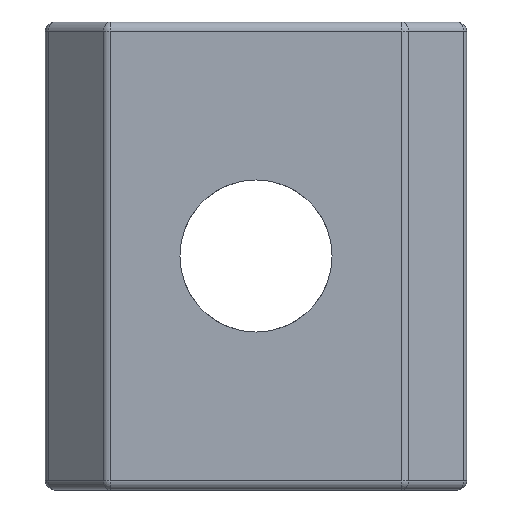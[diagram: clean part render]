
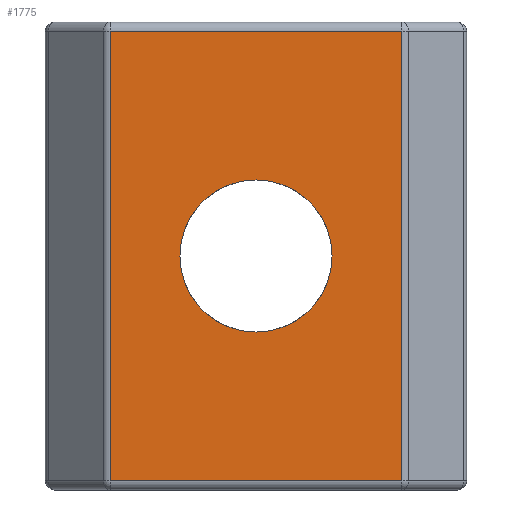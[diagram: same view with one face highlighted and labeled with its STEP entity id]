
A CAD part, front view. The second image highlights one B-rep face of the part: STEP entity #1775.
In plain terms, the highlighted planar face has unit normal (0, -1, 0).
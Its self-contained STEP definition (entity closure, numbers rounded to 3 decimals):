
#30 = EDGE_CURVE ( 'NONE', #1901, #177, #1911, .T. ) ;
#165 = LINE ( 'NONE', #266, #1676 ) ;
#177 = VERTEX_POINT ( 'NONE', #229 ) ;
#202 = EDGE_LOOP ( 'NONE', ( #1721, #571 ) ) ;
#212 = CARTESIAN_POINT ( 'NONE',  ( -4.073, -5.2, -0.4 ) ) ;
#229 = CARTESIAN_POINT ( 'NONE',  ( 8.395, -5.2, -19.6 ) ) ;
#266 = CARTESIAN_POINT ( 'NONE',  ( -4.239, -5.2, -0.4 ) ) ;
#284 = VECTOR ( 'NONE', #1861, 1000. ) ;
#297 = CIRCLE ( 'NONE', #980, 3.25 ) ;
#355 = CARTESIAN_POINT ( 'NONE',  ( -4.073, -5.2, -20. ) ) ;
#398 = CARTESIAN_POINT ( 'NONE',  ( -4.239, -5.2, -19.6 ) ) ;
#490 = DIRECTION ( 'NONE',  ( 1., 0., 0. ) ) ;
#515 = VECTOR ( 'NONE', #975, 1000. ) ;
#516 = EDGE_CURVE ( 'NONE', #1458, #632, #297, .T. ) ;
#570 = DIRECTION ( 'NONE',  ( 1., 0., 0. ) ) ;
#571 = ORIENTED_EDGE ( 'NONE', *, *, #1777, .T. ) ;
#587 = DIRECTION ( 'NONE',  ( 0., -1., 0. ) ) ;
#632 = VERTEX_POINT ( 'NONE', #1624 ) ;
#643 = FACE_OUTER_BOUND ( 'NONE', #1850, .T. ) ;
#697 = CARTESIAN_POINT ( 'NONE',  ( 2.161, -5.2, -6.75 ) ) ;
#854 = EDGE_CURVE ( 'NONE', #889, #1891, #165, .T. ) ;
#858 = CARTESIAN_POINT ( 'NONE',  ( 2.161, -5.2, -10. ) ) ;
#889 = VERTEX_POINT ( 'NONE', #1021 ) ;
#920 = AXIS2_PLACEMENT_3D ( 'NONE', #1860, #2019, #1327 ) ;
#933 = LINE ( 'NONE', #1314, #284 ) ;
#975 = DIRECTION ( 'NONE',  ( 1., 0., 0. ) ) ;
#977 = CARTESIAN_POINT ( 'NONE',  ( -4.073, -5.2, -19.6 ) ) ;
#980 = AXIS2_PLACEMENT_3D ( 'NONE', #858, #1763, #490 ) ;
#1021 = CARTESIAN_POINT ( 'NONE',  ( 8.395, -5.2, -0.4 ) ) ;
#1067 = AXIS2_PLACEMENT_3D ( 'NONE', #1305, #587, #570 ) ;
#1137 = LINE ( 'NONE', #355, #2033 ) ;
#1242 = ORIENTED_EDGE ( 'NONE', *, *, #854, .T. ) ;
#1257 = PLANE ( 'NONE',  #1067 ) ;
#1305 = CARTESIAN_POINT ( 'NONE',  ( -4.239, -5.2, -20. ) ) ;
#1314 = CARTESIAN_POINT ( 'NONE',  ( 8.395, -5.2, -20. ) ) ;
#1327 = DIRECTION ( 'NONE',  ( 1., 0., 0. ) ) ;
#1458 = VERTEX_POINT ( 'NONE', #697 ) ;
#1501 = EDGE_CURVE ( 'NONE', #177, #889, #933, .T. ) ;
#1512 = FACE_BOUND ( 'NONE', #202, .T. ) ;
#1593 = ORIENTED_EDGE ( 'NONE', *, *, #2003, .T. ) ;
#1624 = CARTESIAN_POINT ( 'NONE',  ( 2.161, -5.2, -13.25 ) ) ;
#1676 = VECTOR ( 'NONE', #1743, 1000. ) ;
#1721 = ORIENTED_EDGE ( 'NONE', *, *, #516, .T. ) ;
#1743 = DIRECTION ( 'NONE',  ( -1., 0., 0. ) ) ;
#1763 = DIRECTION ( 'NONE',  ( 0., 1., 0. ) ) ;
#1775 = ADVANCED_FACE ( 'NONE', ( #643, #1512 ), #1257, .T. ) ;
#1777 = EDGE_CURVE ( 'NONE', #632, #1458, #2060, .T. ) ;
#1850 = EDGE_LOOP ( 'NONE', ( #1242, #1593, #1963, #2336 ) ) ;
#1860 = CARTESIAN_POINT ( 'NONE',  ( 2.161, -5.2, -10. ) ) ;
#1861 = DIRECTION ( 'NONE',  ( 0., 0., 1. ) ) ;
#1891 = VERTEX_POINT ( 'NONE', #212 ) ;
#1901 = VERTEX_POINT ( 'NONE', #977 ) ;
#1911 = LINE ( 'NONE', #398, #515 ) ;
#1963 = ORIENTED_EDGE ( 'NONE', *, *, #30, .T. ) ;
#2003 = EDGE_CURVE ( 'NONE', #1891, #1901, #1137, .T. ) ;
#2019 = DIRECTION ( 'NONE',  ( 0., 1., 0. ) ) ;
#2033 = VECTOR ( 'NONE', #2176, 1000. ) ;
#2060 = CIRCLE ( 'NONE', #920, 3.25 ) ;
#2176 = DIRECTION ( 'NONE',  ( 0., 0., -1. ) ) ;
#2336 = ORIENTED_EDGE ( 'NONE', *, *, #1501, .T. ) ;
